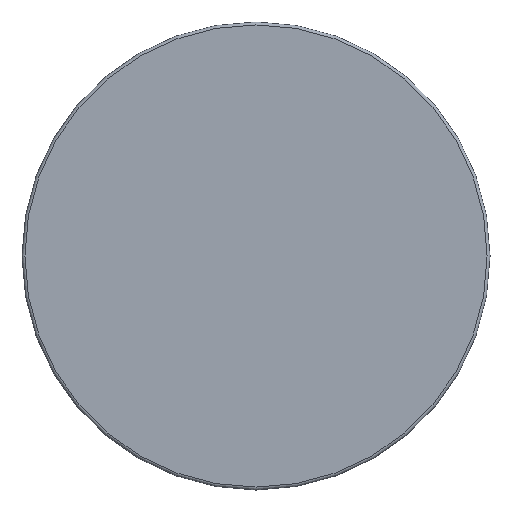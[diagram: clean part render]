
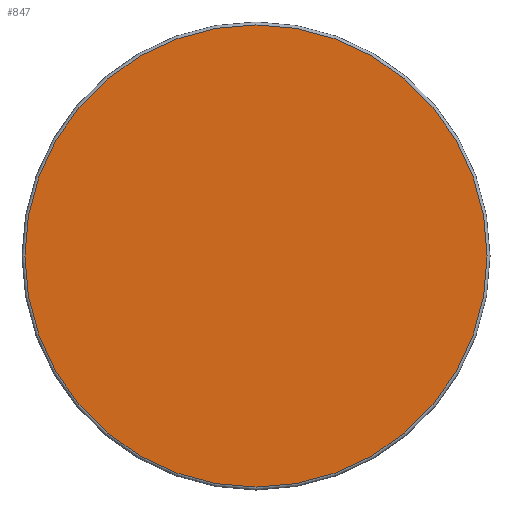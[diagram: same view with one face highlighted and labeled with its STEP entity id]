
A CAD part, left-side view. The second image highlights one B-rep face of the part: STEP entity #847.
In plain terms, the highlighted planar face has unit normal (-1, 0, 0).
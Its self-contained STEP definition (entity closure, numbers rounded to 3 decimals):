
#824=CARTESIAN_POINT('',(0.0,79.0,0.0));
#825=VERTEX_POINT('',#824);
#826=CARTESIAN_POINT('',(0.0,0.0,0.0));
#827=DIRECTION('',(1.0,0.0,0.0));
#828=DIRECTION('',(0.0,-1.0,0.0));
#829=AXIS2_PLACEMENT_3D('',#826,#827,#828);
#830=CIRCLE('',#829,79.0);
#831=EDGE_CURVE('',#825,#825,#830,.T.);
#839=CARTESIAN_POINT('',(0.0,59.5,0.));
#840=DIRECTION('',(-1.0,0.0,0.0));
#841=DIRECTION('',(0.0,0.0,1.0));
#842=AXIS2_PLACEMENT_3D('',#839,#840,#841);
#843=PLANE('',#842);
#844=ORIENTED_EDGE('',*,*,#831,.F.);
#845=EDGE_LOOP('',(#844));
#846=FACE_OUTER_BOUND('',#845,.T.);
#847=ADVANCED_FACE('',(#846),#843,.T.);
